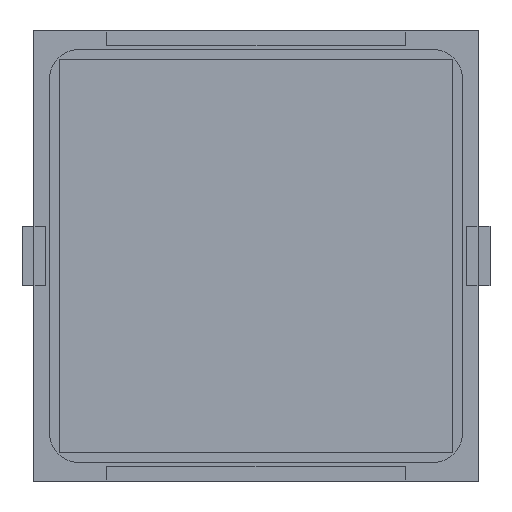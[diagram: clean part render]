
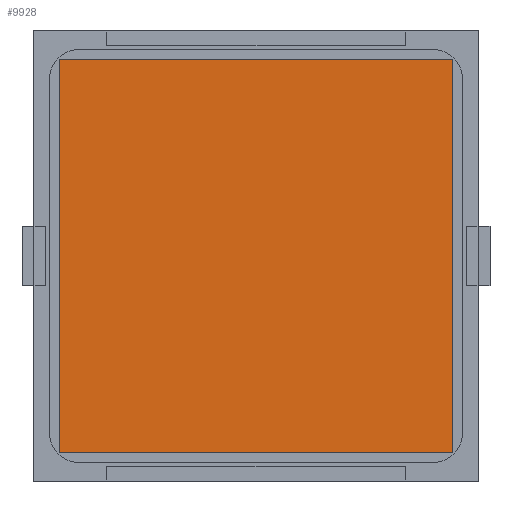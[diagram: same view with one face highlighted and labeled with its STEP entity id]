
A CAD part, front view. The second image highlights one B-rep face of the part: STEP entity #9928.
In plain terms, the highlighted planar face has unit normal (0, -1, 0).
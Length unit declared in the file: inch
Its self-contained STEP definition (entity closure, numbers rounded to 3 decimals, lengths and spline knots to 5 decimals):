
#44 = DIRECTION ( 'NONE',  ( 0., 0., 1. ) ) ;
#111 = DIRECTION ( 'NONE',  ( -1., 0., 0. ) ) ;
#305 = EDGE_CURVE ( 'NONE', #1689, #5529, #7662, .T. ) ;
#688 = CARTESIAN_POINT ( 'NONE',  ( -0.64961, -0.005, -0.64961 ) ) ;
#740 = EDGE_LOOP ( 'NONE', ( #5021, #6939, #6215, #2978 ) ) ;
#749 = DIRECTION ( 'NONE',  ( 1., 0., 0. ) ) ;
#762 = DIRECTION ( 'NONE',  ( 0., 0., -1. ) ) ;
#772 = VECTOR ( 'NONE', #762, 39.37008 ) ;
#1512 = VECTOR ( 'NONE', #111, 39.37008 ) ;
#1689 = VERTEX_POINT ( 'NONE', #8071 ) ;
#1893 = EDGE_CURVE ( 'NONE', #5895, #1689, #4099, .T. ) ;
#1957 = PLANE ( 'NONE',  #2154 ) ;
#2154 = AXIS2_PLACEMENT_3D ( 'NONE', #4032, #4794, #8981 ) ;
#2462 = LINE ( 'NONE', #5058, #9977 ) ;
#2978 = ORIENTED_EDGE ( 'NONE', *, *, #6990, .F. ) ;
#3564 = CARTESIAN_POINT ( 'NONE',  ( -0.64961, -0.005, -0.64961 ) ) ;
#3800 = FACE_OUTER_BOUND ( 'NONE', #740, .T. ) ;
#4032 = CARTESIAN_POINT ( 'NONE',  ( -0.64961, -0.005, 0.64961 ) ) ;
#4099 = LINE ( 'NONE', #5800, #772 ) ;
#4550 = EDGE_CURVE ( 'NONE', #5529, #4733, #8250, .T. ) ;
#4733 = VERTEX_POINT ( 'NONE', #5363 ) ;
#4794 = DIRECTION ( 'NONE',  ( 0., 1., 0. ) ) ;
#5021 = ORIENTED_EDGE ( 'NONE', *, *, #4550, .F. ) ;
#5058 = CARTESIAN_POINT ( 'NONE',  ( -0.64961, -0.005, 0.64961 ) ) ;
#5363 = CARTESIAN_POINT ( 'NONE',  ( -0.64961, -0.005, 0.64961 ) ) ;
#5529 = VERTEX_POINT ( 'NONE', #10824 ) ;
#5800 = CARTESIAN_POINT ( 'NONE',  ( 0.64961, -0.005, -0.64961 ) ) ;
#5895 = VERTEX_POINT ( 'NONE', #9375 ) ;
#6215 = ORIENTED_EDGE ( 'NONE', *, *, #1893, .F. ) ;
#6939 = ORIENTED_EDGE ( 'NONE', *, *, #305, .F. ) ;
#6990 = EDGE_CURVE ( 'NONE', #4733, #5895, #2462, .T. ) ;
#7426 = VECTOR ( 'NONE', #44, 39.37008 ) ;
#7662 = LINE ( 'NONE', #3564, #1512 ) ;
#8071 = CARTESIAN_POINT ( 'NONE',  ( 0.64961, -0.005, -0.64961 ) ) ;
#8250 = LINE ( 'NONE', #688, #7426 ) ;
#8981 = DIRECTION ( 'NONE',  ( 0., 0., 1. ) ) ;
#9375 = CARTESIAN_POINT ( 'NONE',  ( 0.64961, -0.005, 0.64961 ) ) ;
#9928 = ADVANCED_FACE ( 'NONE', ( #3800 ), #1957, .F. ) ;
#9977 = VECTOR ( 'NONE', #749, 39.37008 ) ;
#10824 = CARTESIAN_POINT ( 'NONE',  ( -0.64961, -0.005, -0.64961 ) ) ;
